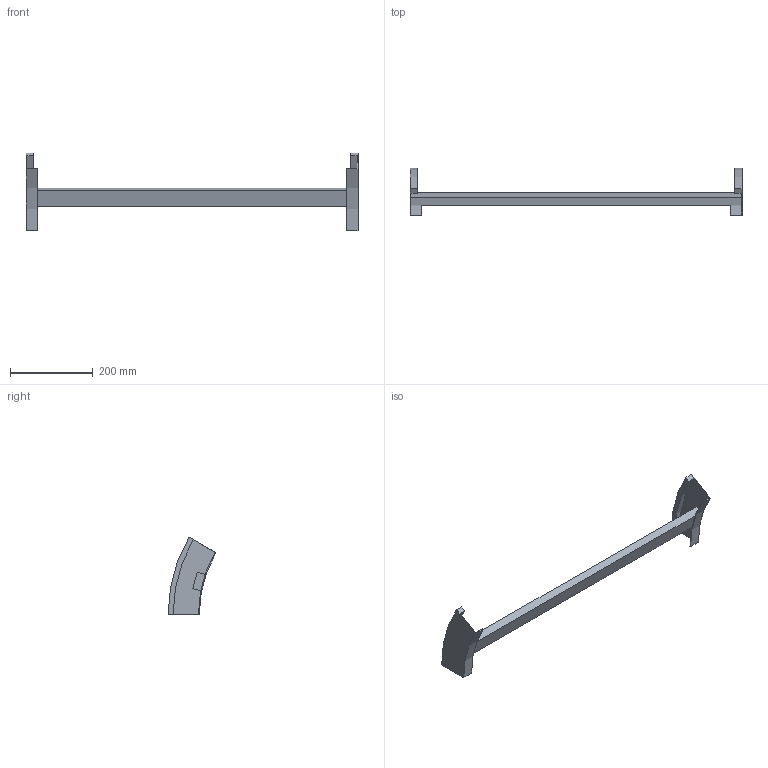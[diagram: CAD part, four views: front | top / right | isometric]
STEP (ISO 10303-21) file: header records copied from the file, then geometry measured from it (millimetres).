
FILE_DESCRIPTION (( 'STEP AP214' ), '1' );
FILE_NAME ('B2_35B3C800.step', '2025-02-21T14:50:42', ( '' ), ( '' ), 'SwSTEP 2.0', 'SolidWorks 2023', '' );
FILE_SCHEMA (( 'AUTOMOTIVE_DESIGN' ));
Length unit declared in the file: millimetre
Products named in the file (3): B2_35B3C800; TRAVERSINO_800; B2_LONGH.DISCESA_30°_H75_R300
Assembly tree (3 placements, depth 2):
  B2_35B3C800
    B2_LONGH.DISCESA_30°_H75_R300  x2
    TRAVERSINO_800
Bounding box: 800 x 115.19 x 187.5 mm (x, y, z)
Volume: 787726.6 mm3; surface area: 182057.7 mm2
Topology: 3 solids, 3 shells, 26 faces, 60 edges, 40 vertices
Faces by surface type: plane 18, cylinder 8
Entity records: 544 total; most frequent: DIRECTION 88, CARTESIAN_POINT 82, ORIENTED_EDGE 72, EDGE_CURVE 36, AXIS2_PLACEMENT_3D 30, LINE 28, VECTOR 28, VERTEX_POINT 24
